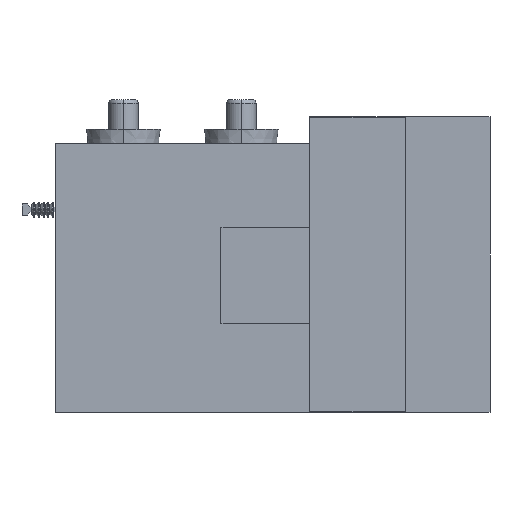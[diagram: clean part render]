
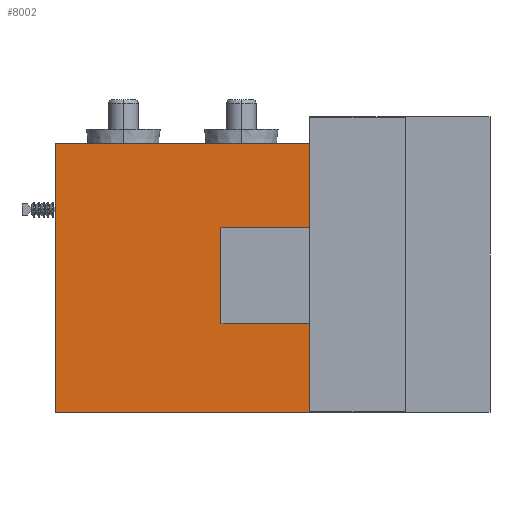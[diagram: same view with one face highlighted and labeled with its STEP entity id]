
A CAD part, top view. The second image highlights one B-rep face of the part: STEP entity #8002.
In plain terms, the highlighted planar face has unit normal (0, 0, 1).
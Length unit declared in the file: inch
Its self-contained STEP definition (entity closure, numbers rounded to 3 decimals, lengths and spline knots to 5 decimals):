
#174 = ORIENTED_EDGE ( 'NONE', *, *, #1746, .F. ) ;
#184 = PLANE ( 'NONE',  #9851 ) ;
#280 = DIRECTION ( 'NONE',  ( 1., 0., 0. ) ) ;
#929 = VERTEX_POINT ( 'NONE', #12769 ) ;
#1201 = DIRECTION ( 'NONE',  ( 0., -1., 0. ) ) ;
#1674 = ORIENTED_EDGE ( 'NONE', *, *, #13019, .F. ) ;
#1746 = EDGE_CURVE ( 'NONE', #7295, #13977, #11411, .T. ) ;
#2388 = DIRECTION ( 'NONE',  ( -1., 0., 0. ) ) ;
#2504 = CARTESIAN_POINT ( 'NONE',  ( -60.375, 0., 33.565 ) ) ;
#2985 = DIRECTION ( 'NONE',  ( 0., -1., 0. ) ) ;
#3882 = VECTOR ( 'NONE', #2985, 39.37008 ) ;
#4554 = DIRECTION ( 'NONE',  ( 0., 0., -1. ) ) ;
#4641 = EDGE_CURVE ( 'NONE', #7295, #10075, #6914, .T. ) ;
#5687 = CARTESIAN_POINT ( 'NONE',  ( -60.375, 127.75, 33.565 ) ) ;
#6020 = EDGE_CURVE ( 'NONE', #10075, #929, #13293, .T. ) ;
#6082 = ORIENTED_EDGE ( 'NONE', *, *, #4641, .T. ) ;
#6914 = LINE ( 'NONE', #12390, #9144 ) ;
#7295 = VERTEX_POINT ( 'NONE', #8244 ) ;
#7417 = ORIENTED_EDGE ( 'NONE', *, *, #6020, .T. ) ;
#7899 = VECTOR ( 'NONE', #12778, 39.37008 ) ;
#8002 = ADVANCED_FACE ( 'NONE', ( #10017 ), #184, .F. ) ;
#8244 = CARTESIAN_POINT ( 'NONE',  ( -60.375, 127.75, 33.565 ) ) ;
#9144 = VECTOR ( 'NONE', #1201, 39.37008 ) ;
#9521 = LINE ( 'NONE', #13906, #3882 ) ;
#9851 = AXIS2_PLACEMENT_3D ( 'NONE', #5687, #4554, #2388 ) ;
#10017 = FACE_OUTER_BOUND ( 'NONE', #11652, .T. ) ;
#10075 = VERTEX_POINT ( 'NONE', #2504 ) ;
#10119 = CARTESIAN_POINT ( 'NONE',  ( -60.375, 0., 33.565 ) ) ;
#11411 = LINE ( 'NONE', #13719, #7899 ) ;
#11652 = EDGE_LOOP ( 'NONE', ( #7417, #1674, #174, #6082 ) ) ;
#11980 = CARTESIAN_POINT ( 'NONE',  ( 60.375, 127.75, 33.565 ) ) ;
#12390 = CARTESIAN_POINT ( 'NONE',  ( -60.375, 127.75, 33.565 ) ) ;
#12769 = CARTESIAN_POINT ( 'NONE',  ( 60.375, 0., 33.565 ) ) ;
#12778 = DIRECTION ( 'NONE',  ( 1., 0., 0. ) ) ;
#12998 = VECTOR ( 'NONE', #280, 39.37008 ) ;
#13019 = EDGE_CURVE ( 'NONE', #13977, #929, #9521, .T. ) ;
#13293 = LINE ( 'NONE', #10119, #12998 ) ;
#13719 = CARTESIAN_POINT ( 'NONE',  ( -60.375, 127.75, 33.565 ) ) ;
#13906 = CARTESIAN_POINT ( 'NONE',  ( 60.375, 127.75, 33.565 ) ) ;
#13977 = VERTEX_POINT ( 'NONE', #11980 ) ;
